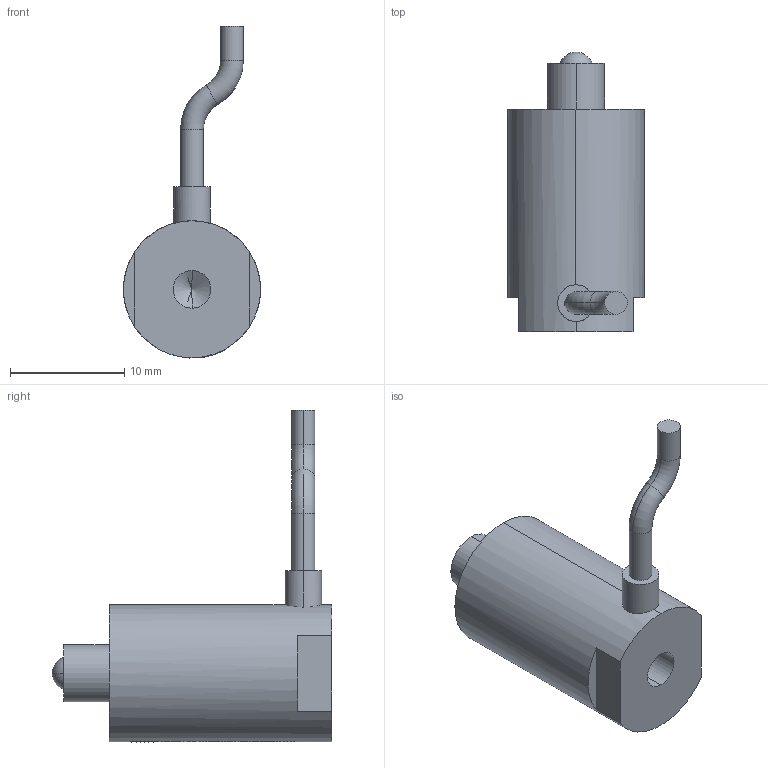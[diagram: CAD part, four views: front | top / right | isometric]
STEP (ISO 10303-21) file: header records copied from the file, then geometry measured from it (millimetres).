
FILE_DESCRIPTION (( 'STEP AP203' ), '1' );
FILE_NAME ('球头式7VS12.STEP', '2020-08-19T06:02:57', ( 'User' ), ( 'china' ), 'SwSTEP 2.0', 'SolidWorks 2016', '' );
FILE_SCHEMA (( 'CONFIG_CONTROL_DESIGN' ));
Length unit declared in the file: millimetre
Products named in the file (1): ⑩芛宒7VS12
Bounding box: 12 x 24.5 x 29.08 mm (x, y, z)
Volume: 2278.5 mm3; surface area: 1221.1 mm2
Topology: 1 solids, 1 shells, 904 faces, 2430 edges, 1616 vertices
Faces by surface type: bspline 493, plane 305, cylinder 98, torus 4, sphere 2, cone 2
Entity records: 41388 total; most frequent: CARTESIAN_POINT 23073, ORIENTED_EDGE 4856, EDGE_CURVE 2428, DIRECTION 1893, B_SPLINE_CURVE_WITH_KNOTS 1623, VERTEX_POINT 1616, EDGE_LOOP 994, FACE_OUTER_BOUND 904
